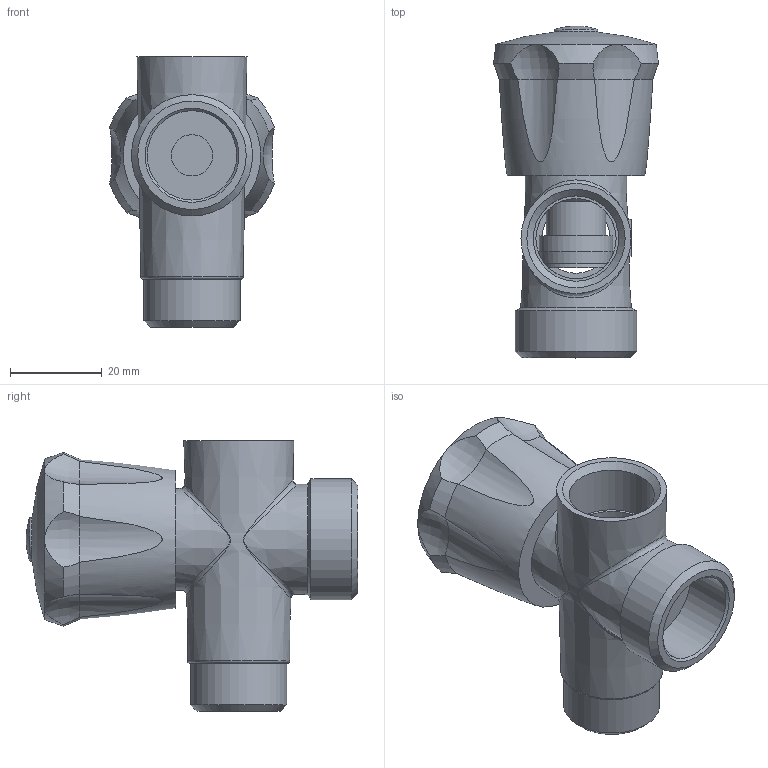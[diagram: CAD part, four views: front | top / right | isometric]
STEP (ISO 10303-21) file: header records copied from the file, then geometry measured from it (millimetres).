
FILE_DESCRIPTION(('STEP AP203'), '1');
FILE_NAME('VT.255.N.04', '2026-03-27T09:03:09', ('VerevichevVA'), ('Vesta'), 'C3D Converter', 'C3D Toolkit', '');
FILE_SCHEMA(('CONFIG_CONTROL_DESIGN'));
Length unit declared in the file: millimetre
Products named in the file (1): ВР.493176.043.000 СБ
Bounding box: 36.01 x 72.39 x 59 mm (x, y, z)
Volume: 43718.8 mm3; surface area: 16175.7 mm2
Topology: 1 solids, 11 shells, 148 faces, 315 edges, 197 vertices
Faces by surface type: plane 68, cone 34, cylinder 32, torus 10, sphere 2, bspline 2
Full cylindrical faces by diameter (mm): 9 x1, 9.6 x1, 12 x1, 13 x1, 14 x1, 15 x1, 16 x1, 16.5 x1, 17.5 x1, 18.632 x1, 19.5 x1, 20.955 x1, 26.441 x1
Entity records: 7148 total; most frequent: CARTESIAN_POINT 4101, DIRECTION 623, ORIENTED_EDGE 564, EDGE_CURVE 282, AXIS2_PLACEMENT_3D 262, VERTEX_POINT 196, EDGE_LOOP 195, ADVANCED_FACE 148
